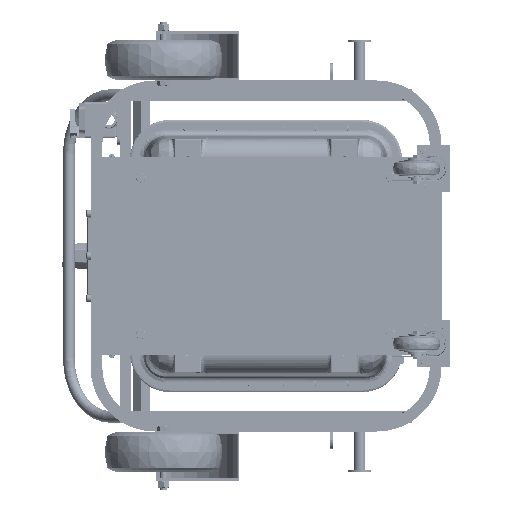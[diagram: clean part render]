
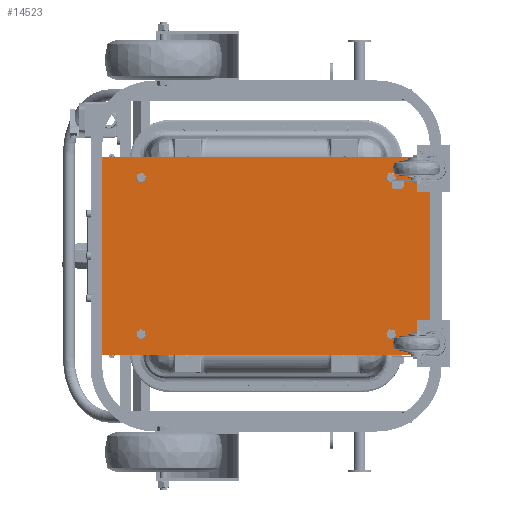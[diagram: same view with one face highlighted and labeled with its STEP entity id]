
A CAD part, front view. The second image highlights one B-rep face of the part: STEP entity #14523.
In plain terms, the highlighted planar face has unit normal (0, -1, 0).
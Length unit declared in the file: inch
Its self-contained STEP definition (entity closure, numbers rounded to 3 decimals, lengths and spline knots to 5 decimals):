
#1210 = FACE_OUTER_BOUND ( 'NONE', #47279, .T. ) ;
#1327 = CARTESIAN_POINT ( 'NONE',  ( 8.5, 0., 14.5 ) ) ;
#3664 = DIRECTION ( 'NONE',  ( 1., 0., 0. ) ) ;
#5243 = CARTESIAN_POINT ( 'NONE',  ( -8.5, 0., -14.5 ) ) ;
#5833 = DIRECTION ( 'NONE',  ( 0., 0., 1. ) ) ;
#14523 = ADVANCED_FACE ( 'NONE', ( #1210 ), #163906, .T. ) ;
#25238 = ORIENTED_EDGE ( 'NONE', *, *, #174742, .F. ) ;
#26672 = EDGE_CURVE ( 'NONE', #69103, #153374, #67554, .T. ) ;
#29645 = DIRECTION ( 'NONE',  ( 0., -1., 0. ) ) ;
#41629 = VECTOR ( 'NONE', #3664, 39.37008 ) ;
#47279 = EDGE_LOOP ( 'NONE', ( #160701, #25238, #48347, #117315 ) ) ;
#48347 = ORIENTED_EDGE ( 'NONE', *, *, #171235, .F. ) ;
#54417 = DIRECTION ( 'NONE',  ( -1., 0., 0. ) ) ;
#57512 = EDGE_CURVE ( 'NONE', #145632, #69103, #65808, .T. ) ;
#65808 = LINE ( 'NONE', #1327, #152510 ) ;
#67554 = LINE ( 'NONE', #5243, #68005 ) ;
#67947 = DIRECTION ( 'NONE',  ( 0., 0., -1. ) ) ;
#68005 = VECTOR ( 'NONE', #54417, 39.37008 ) ;
#69103 = VERTEX_POINT ( 'NONE', #92925 ) ;
#76747 = CARTESIAN_POINT ( 'NONE',  ( -8.5, 0., 14.5 ) ) ;
#85547 = VECTOR ( 'NONE', #5833, 39.37008 ) ;
#88704 = CARTESIAN_POINT ( 'NONE',  ( -8.5, 0., -14.5 ) ) ;
#89697 = CARTESIAN_POINT ( 'NONE',  ( 8.5, 0., 14.5 ) ) ;
#92925 = CARTESIAN_POINT ( 'NONE',  ( 8.5, 0., -14.5 ) ) ;
#96298 = DIRECTION ( 'NONE',  ( 0., 0., -1. ) ) ;
#103030 = LINE ( 'NONE', #201294, #41629 ) ;
#117315 = ORIENTED_EDGE ( 'NONE', *, *, #26672, .F. ) ;
#145632 = VERTEX_POINT ( 'NONE', #89697 ) ;
#152510 = VECTOR ( 'NONE', #67947, 39.37008 ) ;
#153374 = VERTEX_POINT ( 'NONE', #88704 ) ;
#155378 = LINE ( 'NONE', #76747, #85547 ) ;
#160701 = ORIENTED_EDGE ( 'NONE', *, *, #57512, .F. ) ;
#163906 = PLANE ( 'NONE',  #194157 ) ;
#171235 = EDGE_CURVE ( 'NONE', #153374, #187479, #155378, .T. ) ;
#174742 = EDGE_CURVE ( 'NONE', #187479, #145632, #103030, .T. ) ;
#187479 = VERTEX_POINT ( 'NONE', #194609 ) ;
#194157 = AXIS2_PLACEMENT_3D ( 'NONE', #197734, #29645, #96298 ) ;
#194609 = CARTESIAN_POINT ( 'NONE',  ( -8.5, 0., 14.5 ) ) ;
#197734 = CARTESIAN_POINT ( 'NONE',  ( 0., 0., 0. ) ) ;
#201294 = CARTESIAN_POINT ( 'NONE',  ( -8.5, 0., 14.5 ) ) ;
